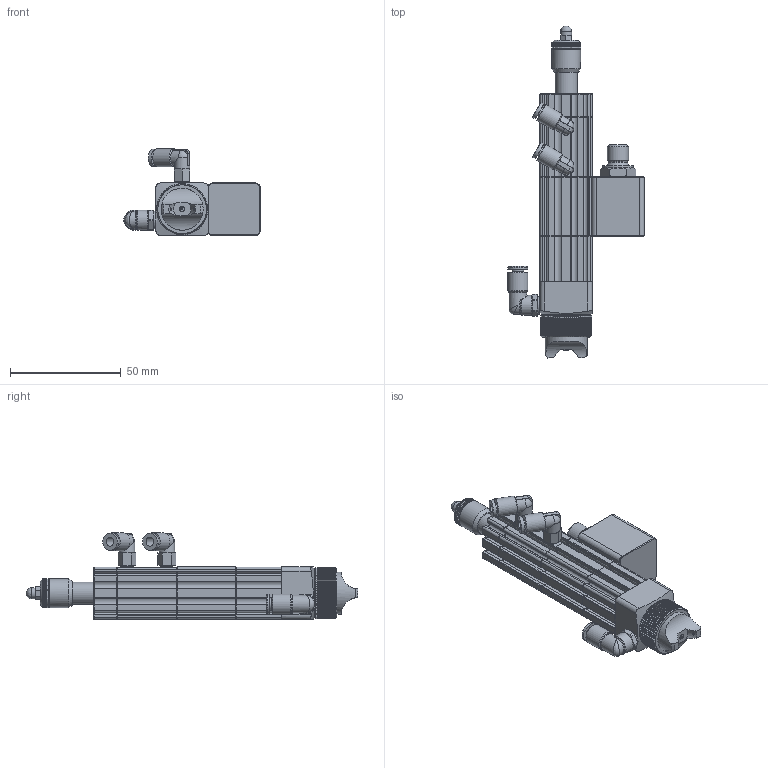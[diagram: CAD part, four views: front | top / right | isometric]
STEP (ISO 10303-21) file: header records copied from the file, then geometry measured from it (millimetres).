
FILE_DESCRIPTION (( 'STEP AP214' ), '1' );
FILE_NAME ('DAVS-100-CO.STEP', '2025-02-03T07:32:47', ( '' ), ( '' ), 'SwSTEP 2.0', 'SolidWorks 2024', '' );
FILE_SCHEMA (( 'AUTOMOTIVE_DESIGN' ));
Length unit declared in the file: millimetre
Products named in the file (1): DAVS-100-CO
Bounding box: 61.7 x 150.18 x 39.26 mm (x, y, z)
Volume: 67057.9 mm3; surface area: 29897.6 mm2
Topology: 4 solids, 4 shells, 1795 faces, 4314 edges, 2446 vertices
Faces by surface type: plane 1011, cone 456, cylinder 310, bspline 13, sphere 5
Full cylindrical faces by diameter (mm): 0.5 x1, 1.116 x2, 2 x1, 2.5 x1, 3 x1, 3.3 x3, 3.9 x1, 4 x3, 4.15 x1, 4.2 x1, 4.8 x2, 5 x4, 5.2 x1, 5.5 x2, 7 x2, 7.7 x2, 8 x2, 8.2 x2, 9 x2, 9.1 x1, 9.6 x1, 10 x1, 13 x1, 13.8 x1, 19 x1, 22 x1
Entity records: 51077 total; most frequent: CARTESIAN_POINT 12284, ORIENTED_EDGE 8190, DIRECTION 7776, EDGE_CURVE 4095, AXIS2_PLACEMENT_3D 2831, VERTEX_POINT 2409, LINE 2114, VECTOR 2114
